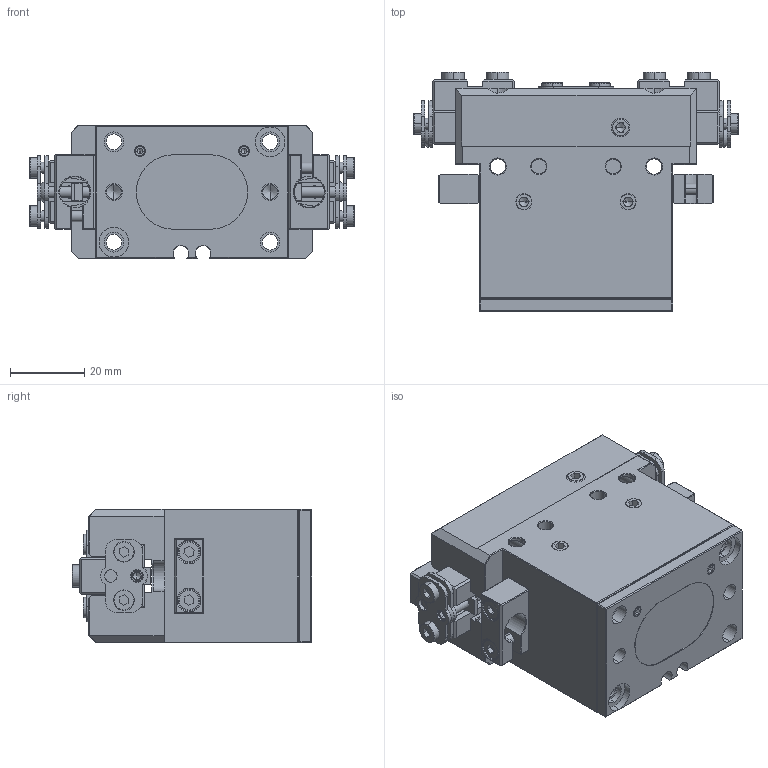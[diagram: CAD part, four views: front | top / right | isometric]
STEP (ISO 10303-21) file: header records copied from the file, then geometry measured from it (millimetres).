
FILE_DESCRIPTION (( 'STEP AP203' ), '1' );
FILE_NAME ('EZ6-NO.STEP', '2026-09-23T06:54:50', ( '' ), ( '' ), 'SwSTEP 2.0', 'SolidWorks 2026', '' );
FILE_SCHEMA (( 'CONFIG_CONTROL_DESIGN' ));
Products named in the file (1): EZ6-NO
Bounding box: 87.27 x 64.4 x 36 mm (x, y, z)
Volume: 112463.4 mm3; surface area: 43452.1 mm2
Topology: 37 solids, 37 shells, 1488 faces, 3824 edges, 2421 vertices
Faces by surface type: plane 760, cylinder 383, cone 183, torus 78, bspline 74, sphere 10
Entity records: 48913 total; most frequent: CARTESIAN_POINT 12866, ORIENTED_EDGE 7510, DIRECTION 7344, EDGE_CURVE 3755, AXIS2_PLACEMENT_3D 2511, VERTEX_POINT 2419, VECTOR 2322, LINE 2322
